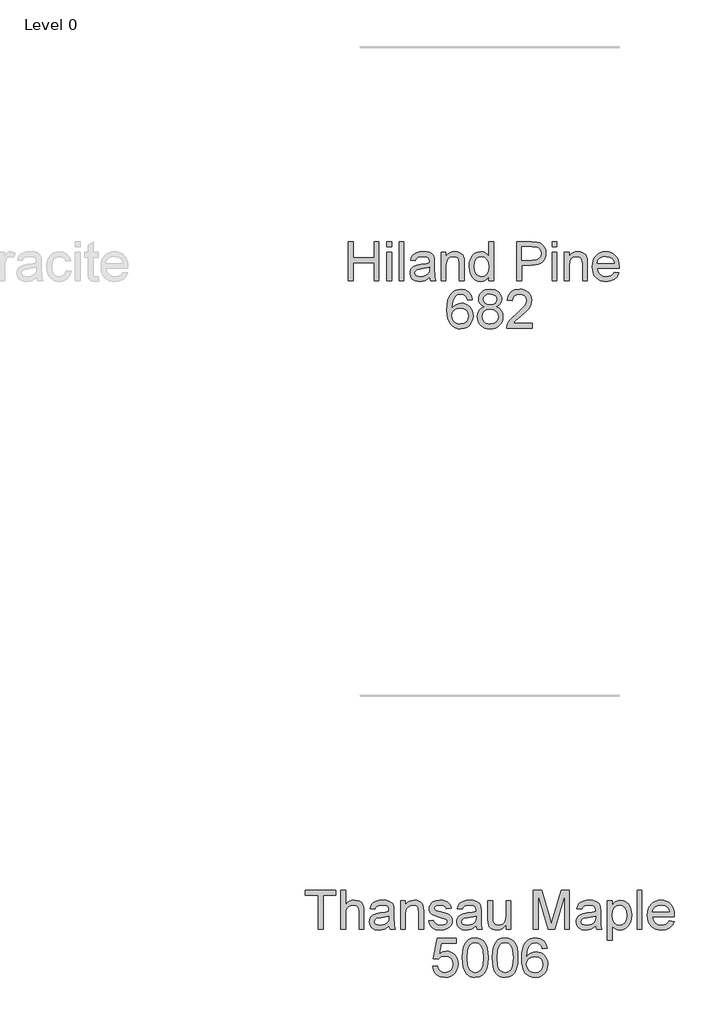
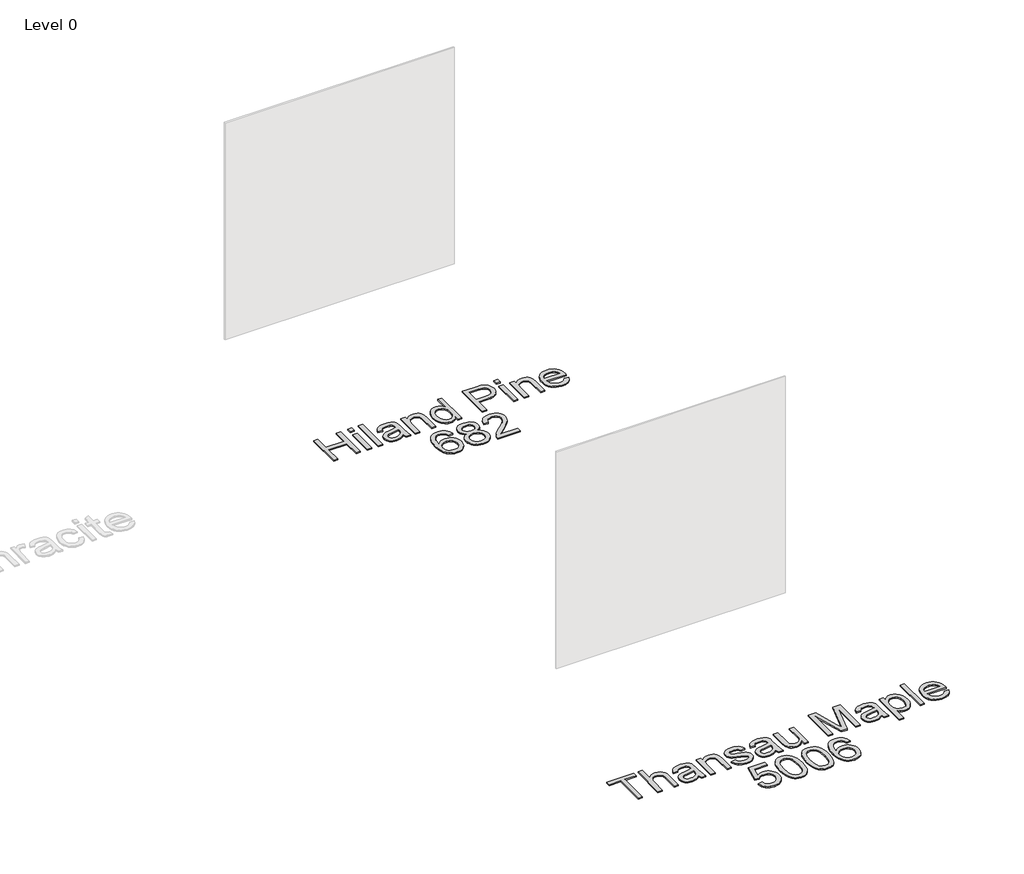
# One storey, part 5 of 16: 2 proxies.
"""IFC4 building model written with IfcOpenShell, lengths in millimetres."""

from ifc_helpers import new_model, si_unit, origin, origin_with_axes, place, context, project, spatial, polyline, outline, extrude, element, save

model = new_model("IFC4")

# Units and contexts
model_context = context("Model", 3, world=origin())
ifc_project = project(units=[si_unit("LENGTHUNIT", "METRE", prefix="MILLI")], contexts=[model_context])

# Site, building, storey
site = spatial("IfcSite", under=ifc_project)
building = spatial("IfcBuilding", under=site)
storey = spatial("IfcBuildingStorey", under=building, Name="Level 0", Elevation=0.0)

# Proxies
placement = place(None, origin())
element("IfcBuildingElementProxy", 1, Name="300mm Arial", ObjectType="300mm Arial", at=placement, inside=storey, context=model_context, shape_type="SweptSolid", body=[
    extrude(outline(polyline([(-5543.1204292, -17002.860494), (-5543.1204292, -16701.4915635), (-5505.4493129, -16701.4915635), (-5505.4493129, -16823.9226915), (-5345.3470686, -16823.9226915), (-5345.3470686, -16701.4915635), (-5307.6759523, -16701.4915635), (-5307.6759523, -17002.860494), (-5345.3470686, -17002.860494), (-5345.3470686, -16861.5938078), (-5505.4493129, -16861.5938078), (-5505.4493129, -17002.860494), (-5543.1204292, -17002.860494)])), origin_with_axes(), (0.0, 0.0, 1.0), 10.0),
    extrude(outline(polyline([(-5246.4603883, -17002.860494), (-5246.4603883, -16781.5426857), (-5208.789272, -16781.5426857), (-5208.789272, -17002.860494), (-5246.4603883, -17002.860494)])), origin_with_axes(), (0.0, 0.0, 1.0), 10.0),
    extrude(outline(polyline([(-5246.4603883, -16739.1626798), (-5246.4603883, -16701.4915635), (-5208.789272, -16701.4915635), (-5208.789272, -16739.1626798), (-5246.4603883, -16739.1626798)])), origin_with_axes(), (0.0, 0.0, 1.0), 10.0),
    extrude(outline(polyline([(-5152.2825975, -17002.860494), (-5152.2825975, -16701.4915635), (-5114.6114812, -16701.4915635), (-5114.6114812, -17002.860494), (-5152.2825975, -17002.860494)])), origin_with_axes(), (0.0, 0.0, 1.0), 10.0),
    extrude(outline(polyline([(-4916.8381206, -16974.6071568), (-4934.8367472, -16990.0398064), (-4953.3688027, -17000.1381672), (-4972.8573514, -17005.7115794), (-4993.7254576, -17007.5693835), (-5025.2069593, -17003.0996173), (-5048.4295103, -16989.6903186), (-5062.7493169, -16969.3280501), (-5067.5225858, -16943.9993748), (-5065.719964, -16928.3827841), (-5060.3120987, -16914.2009331), (-5051.9703745, -16902.0608273), (-5041.366176, -16892.5694718), (-5014.9890369, -16880.2086368), (-4982.3946921, -16874.5432541), (-4943.8774472, -16868.5835657), (-4917.0588498, -16861.5938078), (-4916.8381206, -16853.2060983), (-4919.4316887, -16836.3938912), (-4927.2123929, -16825.3942195), (-4944.6132112, -16817.2272392), (-4968.8566347, -16814.5049125), (-4991.2974364, -16816.3167313), (-5006.9692094, -16821.7521878), (-5017.6561814, -16831.8045633), (-5025.14258, -16847.4671392), (-5062.8136963, -16842.7582497), (-5056.2745938, -16822.156858), (-5046.5165239, -16805.9700502), (-5032.6289786, -16793.590821), (-5013.7014499, -16784.4121652), (-4990.5524754, -16778.7283884), (-4964.0005924, -16776.8337961), (-4938.5339613, -16778.5076592), (-4918.3464368, -16783.5292485), (-4903.1253192, -16791.0800264), (-4892.5579089, -16800.3414556), (-4885.5497569, -16811.7917827), (-4881.0064143, -16825.9092543), (-4879.1670043, -16858.8714811), (-4879.1670043, -16905.7396473), (-4877.2540179, -16971.1858542), (-4869.7492252, -17002.860494), (-4907.4203415, -17002.860494), (-4916.8381206, -16974.6071568)]), holes=[polyline([(-4916.8381206, -16899.2649241), (-4977.6122262, -16910.8164188), (-5010.02263, -16916.9232599), (-5024.7011216, -16926.8560738), (-5029.8514695, -16941.3506244), (-5027.0463693, -16952.5526311), (-5018.6310687, -16961.7312869), (-5004.7895086, -16967.8565221), (-4985.7056301, -16969.8982672), (-4965.4721204, -16967.64499), (-4947.5930554, -16960.8851583), (-4933.0985048, -16950.9247533), (-4923.0185381, -16939.069756), (-4918.5487719, -16926.8560738), (-4917.0588498, -16909.933502), (-4916.8381206, -16899.2649241)])]), origin_with_axes(), (0.0, 0.0, 1.0), 10.0),
    extrude(outline(polyline([(-4827.3692194, -17002.860494), (-4827.3692194, -16781.5426857), (-4789.6981031, -16781.5426857), (-4789.6981031, -16812.4447733), (-4776.6107011, -16796.8649708), (-4760.8929428, -16785.7365404), (-4742.5448283, -16779.0594822), (-4721.5663576, -16776.8337961), (-4702.9975138, -16778.6272209), (-4685.9921686, -16784.0074951), (-4671.8103177, -16792.303234), (-4661.7119569, -16802.8430532), (-4650.4179797, -16830.5445674), (-4648.4314169, -16866.964885), (-4648.4314169, -17002.860494), (-4686.1025332, -17002.860494), (-4686.1025332, -16872.0416565), (-4690.4435408, -16838.7115477), (-4696.4492143, -16828.7879309), (-4705.78422, -16821.0900002), (-4717.7495819, -16816.1511844), (-4731.6463242, -16814.5049125), (-4753.7100469, -16818.2021265), (-4772.5180139, -16829.2937687), (-4780.0343029, -16838.3482643), (-4785.4030808, -16850.7228949), (-4789.6981031, -16885.4325611), (-4789.6981031, -17002.860494), (-4827.3692194, -17002.860494)])), origin_with_axes(), (0.0, 0.0, 1.0), 10.0),
    extrude(outline(polyline([(-4460.0758354, -17002.860494), (-4460.0758354, -16967.3230932), (-4471.34682, -16984.9308452), (-4484.9998406, -16997.507811), (-4501.034897, -17005.0539904), (-4519.4519894, -17007.5693835), (-4543.8057775, -17003.9273518), (-4566.0994264, -16993.0012565), (-4584.9717727, -16975.5544529), (-4599.0616532, -16952.350296), (-4607.8356387, -16924.3268851), (-4610.7603006, -16892.422319), (-4608.065565, -16860.9132261), (-4599.9813581, -16832.4575538), (-4586.5168771, -16808.6739828), (-4567.681319, -16791.181194), (-4544.9002264, -16780.4206456), (-4519.5991422, -16776.8337961), (-4501.1682542, -16779.3997731), (-4484.8710819, -16787.0977038), (-4471.0571129, -16798.8975188), (-4460.0758354, -16813.7691485), (-4460.0758354, -16701.4915635), (-4422.4047191, -16701.4915635), (-4422.4047191, -17002.860494), (-4460.0758354, -17002.860494)]), holes=[polyline([(-4573.0891843, -16892.2751662), (-4568.8401473, -16926.350236), (-4556.0930361, -16950.5844625), (-4537.5701777, -16965.069816), (-4515.9938987, -16969.8982672), (-4494.4268167, -16965.2905452), (-4476.3730078, -16951.4673793), (-4464.1501285, -16928.1712519), (-4460.0758354, -16895.1446458), (-4464.2237049, -16859.037028), (-4476.6673134, -16834.0026582), (-4495.1809748, -16819.3793489), (-4517.539003, -16814.5049125), (-4539.3360112, -16819.1862108), (-4557.1966821, -16833.230106), (-4569.1160588, -16857.3539678), (-4573.0891843, -16892.2751662)])]), origin_with_axes(), (0.0, 0.0, 1.0), 10.0),
    extrude(outline(polyline([(-4243.4669166, -17002.860494), (-4243.4669166, -16701.4915635), (-4131.7779429, -16701.4915635), (-4086.7491867, -16704.3610431), (-4066.6720268, -16709.7229232), (-4050.1449282, -16718.4509235), (-4036.836797, -16730.9405172), (-4026.4165395, -16747.5871775), (-4019.684299, -16767.222879), (-4017.4402188, -16788.6795964), (-4018.9554328, -16807.1794622), (-4023.5010747, -16824.198603), (-4031.0771445, -16839.7370188), (-4041.6836423, -16853.7947095), (-4056.2448715, -16865.4473717), (-4075.6851357, -16873.7707019), (-4100.0044348, -16878.7647), (-4129.2027689, -16880.429366), (-4205.7958003, -16880.429366), (-4205.7958003, -17002.860494), (-4243.4669166, -17002.860494)]), holes=[polyline([(-4205.7958003, -16842.7582497), (-4126.995477, -16842.7582497), (-4093.5917918, -16839.3001589), (-4071.5188721, -16828.9258867), (-4059.2132193, -16812.2792264), (-4055.1113351, -16790.0039716), (-4057.5301592, -16773.0813998), (-4064.7866316, -16758.8075784), (-4075.9794413, -16748.0654241), (-4090.2072774, -16741.7378538), (-4127.8783937, -16739.1626798), (-4205.7958003, -16739.1626798), (-4205.7958003, -16842.7582497)])]), origin_with_axes(), (0.0, 0.0, 1.0), 10.0),
    extrude(outline(polyline([(-3970.3513234, -17002.860494), (-3970.3513234, -16781.5426857), (-3932.6802071, -16781.5426857), (-3932.6802071, -17002.860494), (-3970.3513234, -17002.860494)])), origin_with_axes(), (0.0, 0.0, 1.0), 10.0),
    extrude(outline(polyline([(-3970.3513234, -16739.1626798), (-3970.3513234, -16701.4915635), (-3932.6802071, -16701.4915635), (-3932.6802071, -16739.1626798), (-3970.3513234, -16739.1626798)])), origin_with_axes(), (0.0, 0.0, 1.0), 10.0),
    extrude(outline(polyline([(-3876.1735326, -17002.860494), (-3876.1735326, -16781.5426857), (-3838.5024163, -16781.5426857), (-3838.5024163, -16812.4447733), (-3825.4150144, -16796.8649708), (-3809.6972561, -16785.7365404), (-3791.3491416, -16779.0594822), (-3770.3706708, -16776.8337961), (-3751.8018271, -16778.6272209), (-3734.7964819, -16784.0074951), (-3720.614631, -16792.303234), (-3710.5162702, -16802.8430532), (-3699.222293, -16830.5445674), (-3697.2357302, -16866.964885), (-3697.2357302, -17002.860494), (-3734.9068465, -17002.860494), (-3734.9068465, -16872.0416565), (-3739.247854, -16838.7115477), (-3745.2535276, -16828.7879309), (-3754.5885332, -16821.0900002), (-3766.5538951, -16816.1511844), (-3780.4506375, -16814.5049125), (-3802.5143602, -16818.2021265), (-3821.3223272, -16829.2937687), (-3828.8386162, -16838.3482643), (-3834.207394, -16850.7228949), (-3838.5024163, -16885.4325611), (-3838.5024163, -17002.860494), (-3876.1735326, -17002.860494)])), origin_with_axes(), (0.0, 0.0, 1.0), 10.0),
    extrude(outline(polyline([(-3490.4860489, -16936.9360404), (-3453.5506966, -16941.64493), (-3466.8588278, -16969.4752029), (-3488.0948159, -16990.2789297), (-3516.7804145, -17003.2467701), (-3552.4373769, -17007.5693835), (-3575.8116792, -17005.7046817), (-3596.6383986, -17000.1105761), (-3614.9175352, -16990.7870668), (-3630.6490891, -16977.7341537), (-3643.2996312, -16961.3151204), (-3652.3357327, -16941.8932503), (-3657.7573936, -16919.4685435), (-3659.5646139, -16894.0409998), (-3657.7389995, -16867.7512327), (-3652.2621563, -16844.5792656), (-3643.1340843, -16824.5250983), (-3630.3547835, -16807.5887309), (-3614.6646164, -16794.133447), (-3596.8039455, -16784.5225298), (-3576.7727709, -16778.7559796), (-3554.5710925, -16776.8337961), (-3533.0844847, -16778.751381), (-3513.6534175, -16784.5041357), (-3496.2778911, -16794.0920602), (-3480.9579052, -16807.5151545), (-3468.4522166, -16824.4147337), (-3459.519582, -16844.4321128), (-3454.1600011, -16867.5672917), (-3452.3734742, -16893.8202706), (-3452.5942034, -16903.9738137), (-3621.8934976, -16903.9738137), (-3615.3727892, -16932.1719686), (-3600.2252481, -16952.902119), (-3578.3638605, -16965.6492302), (-3551.7016129, -16969.8982672), (-3531.6520442, -16967.9300985), (-3514.7662606, -16962.0255925), (-3501.0442622, -16951.8168672), (-3490.4860489, -16936.9360404)]), holes=[polyline([(-3621.8934976, -16866.3026974), (-3490.0445905, -16866.3026974), (-3495.1397561, -16846.4002814), (-3505.1277523, -16832.1632482), (-3527.0903074, -16818.9194964), (-3554.7182453, -16814.5049125), (-3580.1113, -16818.0273826), (-3601.1081648, -16828.5947929), (-3615.703883, -16845.0667092), (-3621.8934976, -16866.3026974)])]), origin_with_axes(), (0.0, 0.0, 1.0), 10.0),
    extrude(outline(polyline([(-4584.8614081, -17147.4671392), (-4622.5325245, -17152.1760288), (-4628.6025774, -17133.5060175), (-4636.8063459, -17120.7589064), (-4653.8944645, -17109.0050766), (-4674.5510386, -17105.0871334), (-4692.0622215, -17107.3680017), (-4708.5433349, -17114.2106069), (-4722.6975947, -17128.622384), (-4734.2582864, -17148.4604206), (-4742.0665817, -17176.5206198), (-4744.9636524, -17215.5988847), (-4729.8528995, -17197.9681401), (-4711.7439083, -17185.5429257), (-4691.6483543, -17178.1760888), (-4670.577913, -17175.7204764), (-4652.4781189, -17177.3989381), (-4635.7762763, -17182.4343229), (-4620.4723853, -17190.8266309), (-4606.5664459, -17202.5758621), (-4595.0103527, -17216.9830407), (-4586.7560004, -17233.349191), (-4581.8033891, -17251.6743129), (-4580.1525186, -17271.9584064), (-4583.2611215, -17298.9333537), (-4592.58693, -17323.9401323), (-4607.3573922, -17345.1485293), (-4626.7999556, -17360.7283318), (-4650.0317036, -17370.3024607), (-4676.1697194, -17373.4938371), (-4698.6266159, -17371.3785156), (-4718.9084101, -17365.0325512), (-4737.0151021, -17354.4559438), (-4752.9466917, -17339.6486935), (-4765.9352254, -17319.9854009), (-4775.2127495, -17294.8406665), (-4780.7792639, -17264.2144904), (-4782.6347688, -17228.1068726), (-4780.5746296, -17187.6260575), (-4774.3942121, -17153.0773396), (-4764.0935162, -17124.4607189), (-4749.672542, -17101.7761954), (-4734.0421557, -17086.7436174), (-4715.9193689, -17076.0060617), (-4695.3041816, -17069.5635282), (-4672.1965938, -17067.4160171), (-4639.1423965, -17072.7319119), (-4612.673287, -17088.6795964), (-4594.1320344, -17114.0082718), (-4584.8614081, -17147.4671392)]), holes=[polyline([(-4744.9636524, -17271.3697952), (-4742.7839516, -17288.0624407), (-4736.2448492, -17304.0009282), (-4726.0913061, -17317.7045325), (-4713.0682835, -17327.6925287), (-4697.3505252, -17333.7901727), (-4679.1127753, -17335.8227207), (-4654.2531495, -17331.6104719), (-4634.7094185, -17318.9737254), (-4622.0450808, -17299.1080976), (-4617.8236349, -17273.2092052), (-4621.9898985, -17248.3495793), (-4634.4886893, -17229.3944595), (-4654.3635141, -17217.3923095), (-4680.6578797, -17213.3915928), (-4705.4807173, -17217.3923095), (-4726.2384589, -17229.3944595), (-4740.2823541, -17247.8897269), (-4744.9636524, -17271.3697952)])]), origin_with_axes(), (0.0, 0.0, 1.0), 10.0),
    extrude(outline(polyline([(-4492.3022982, -17202.7965913), (-4512.4714285, -17192.8637774), (-4526.6256883, -17179.3992964), (-4534.9858067, -17162.6790597), (-4537.7725128, -17142.9789789), (-4536.2549995, -17127.6153071), (-4531.7024598, -17113.5300252), (-4524.1148937, -17100.7231332), (-4513.4923011, -17089.1946312), (-4500.3451183, -17079.6664875), (-4485.1837816, -17072.8606706), (-4448.8186463, -17067.4160171), (-4412.2327819, -17072.9894293), (-4396.9058983, -17079.9561946), (-4383.5563804, -17089.709666), (-4372.7406497, -17101.4634957), (-4365.0151278, -17114.4313361), (-4360.3798147, -17128.613187), (-4358.8347103, -17144.0090485), (-4361.5846282, -17163.0745329), (-4369.834382, -17179.509661), (-4383.675942, -17192.8913686), (-4403.2012789, -17202.7965913), (-4380.0155162, -17214.7435591), (-4363.1389297, -17232.3375155), (-4352.8474308, -17254.732332), (-4349.4169312, -17281.0818799), (-4351.1183855, -17299.8714528), (-4356.2227481, -17317.0975272), (-4364.7300193, -17332.7601031), (-4376.6401989, -17346.8591806), (-4391.3278875, -17358.5118428), (-4408.1676859, -17366.8351729), (-4427.1595939, -17371.829171), (-4448.3036115, -17373.4938371), (-4469.4476292, -17371.8222732), (-4488.4395372, -17366.8075818), (-4505.2793355, -17358.4497627), (-4519.9670242, -17346.748816), (-4531.8772038, -17332.5508703), (-4540.3844749, -17316.702054), (-4545.4888376, -17299.2023674), (-4547.1902918, -17280.0518103), (-4543.6218365, -17252.6813898), (-4532.9164704, -17230.1670117), (-4515.6260167, -17213.2812282), (-4492.3022982, -17202.7965913)]), holes=[polyline([(-4500.1013965, -17144.0826249), (-4496.7628674, -17160.52695), (-4486.74728, -17173.6603373), (-4470.3489401, -17182.268776), (-4447.8621531, -17185.1382555), (-4425.899598, -17182.2871701), (-4409.7495784, -17173.7339137), (-4399.8167646, -17161.0419848), (-4396.5058266, -17145.774882), (-4399.9271292, -17129.9283651), (-4410.1910368, -17116.822569), (-4426.5617856, -17108.0209923), (-4448.3036115, -17105.0871334), (-4470.1833932, -17107.9566129), (-4486.5265508, -17116.5650516), (-4496.7076851, -17129.1834041), (-4500.1013965, -17144.0826249)]), polyline([(-4509.5191755, -17278.7274351), (-4503.2283934, -17307.0911369), (-4494.5187872, -17319.2588339), (-4480.9715327, -17328.317928), (-4464.7479367, -17333.9465226), (-4448.0093059, -17335.8227207), (-4422.3679309, -17331.8771864), (-4403.1277025, -17320.0405832), (-4391.0979613, -17302.1155329), (-4387.0880475, -17279.9046575), (-4391.22672, -17257.316703), (-4403.6427373, -17238.9961796), (-4423.3244241, -17226.8560738), (-4449.2601047, -17222.8093718), (-4474.5427948, -17226.8008915), (-4493.5898851, -17238.7754504), (-4505.5368529, -17256.7464859), (-4509.5191755, -17278.7274351)])]), origin_with_axes(), (0.0, 0.0, 1.0), 10.0),
    extrude(outline(polyline([(-4123.3902334, -17331.1138312), (-4123.3902334, -17368.7849475), (-4321.163594, -17368.7849475), (-4317.1168921, -17342.8124787), (-4307.8278717, -17322.5145896), (-4294.234632, -17302.8237058), (-4274.5713393, -17282.213117), (-4247.0721602, -17259.156113), (-4206.4211997, -17223.0484951), (-4182.0306234, -17196.3954446), (-4169.8353353, -17174.7639833), (-4165.7702392, -17153.7211331), (-4169.605409, -17134.8579838), (-4181.1109184, -17119.1770138), (-4198.7968454, -17108.6096035), (-4221.1732677, -17105.0871334), (-4244.6717302, -17108.52683), (-4262.9278742, -17118.84592), (-4274.7092951, -17135.2350629), (-4278.7835882, -17156.8849183), (-4316.4547045, -17152.1760288), (-4307.3220339, -17115.7373171), (-4298.7756753, -17101.2013798), (-4287.5759678, -17089.1210548), (-4273.9804289, -17079.6251008), (-4258.2465758, -17072.8422765), (-4220.3639273, -17067.4160171), (-4200.1741036, -17068.9243332), (-4182.2053674, -17073.4492818), (-4166.4577187, -17080.9908627), (-4152.9311576, -17091.549076), (-4142.0671424, -17104.3421723), (-4134.3071316, -17118.5884026), (-4129.6511251, -17134.2877667), (-4128.0991229, -17151.4402648), (-4129.772986, -17169.4572855), (-4134.7945752, -17187.1616065), (-4143.7065166, -17205.1694302), (-4157.051436, -17224.0969588), (-4178.3242123, -17246.6941104), (-4211.0197246, -17275.7108027), (-4254.3562237, -17311.9471793), (-4271.3523719, -17331.1138312), (-4123.3902334, -17331.1138312)])), origin_with_axes(), (0.0, 0.0, 1.0), 10.0),
])
element("IfcBuildingElementProxy", 2, Name="300mm Arial", ObjectType="300mm Arial", at=placement, inside=storey, context=model_context, shape_type="SweptSolid", body=[
    extrude(outline(polyline([(-5776.2104613, -22012.860494), (-5776.2104613, -21749.1626798), (-5875.0971416, -21749.1626798), (-5875.0971416, -21711.4915635), (-5639.6526647, -21711.4915635), (-5639.6526647, -21749.1626798), (-5738.539345, -21749.1626798), (-5738.539345, -22012.860494), (-5776.2104613, -22012.860494)])), origin_with_axes(), (0.0, 0.0, 1.0), 10.0),
    extrude(outline(polyline([(-5601.9815484, -22012.860494), (-5601.9815484, -21711.4915635), (-5564.3104321, -21711.4915635), (-5564.3104321, -21822.2976205), (-5550.4734706, -21806.7821973), (-5534.9350548, -21795.6997522), (-5517.6951848, -21789.0502852), (-5498.7538606, -21786.8337961), (-5476.0003592, -21789.2526203), (-5456.4474311, -21796.5090926), (-5441.0515696, -21808.0329961), (-5430.7692679, -21823.2541137), (-5424.9751264, -21844.1682051), (-5423.043746, -21872.7710302), (-5423.043746, -22012.860494), (-5460.7148623, -22012.860494), (-5460.7148623, -21876.6705794), (-5463.7131005, -21853.0893435), (-5472.7078153, -21836.9393239), (-5487.2023659, -21827.6135153), (-5506.7001117, -21824.5049125), (-5522.620205, -21826.6018398), (-5537.5654111, -21832.8926219), (-5549.9446402, -21842.7702535), (-5558.1668028, -21855.6277292), (-5562.7745248, -21872.7158479), (-5564.3104321, -21895.2854083), (-5564.3104321, -22012.860494), (-5601.9815484, -22012.860494)])), origin_with_axes(), (0.0, 0.0, 1.0), 10.0),
    extrude(outline(polyline([(-5229.9792749, -21984.6071568), (-5247.9779015, -22000.0398064), (-5266.509957, -22010.1381672), (-5285.9985057, -22015.7115794), (-5306.8666119, -22017.5693835), (-5338.3481136, -22013.0996173), (-5361.5706646, -21999.6903186), (-5375.8904712, -21979.3280501), (-5380.6637401, -21953.9993748), (-5378.8611183, -21938.3827841), (-5373.453253, -21924.2009331), (-5365.1115288, -21912.0608273), (-5354.5073303, -21902.5694718), (-5328.1301912, -21890.2086368), (-5295.5358464, -21884.5432541), (-5257.0186015, -21878.5835657), (-5230.2000041, -21871.5938078), (-5229.9792749, -21863.2060983), (-5232.572843, -21846.3938912), (-5240.3535472, -21835.3942195), (-5257.7543655, -21827.2272392), (-5281.997789, -21824.5049125), (-5304.4385907, -21826.3167313), (-5320.1103637, -21831.7521878), (-5330.7973357, -21841.8045633), (-5338.2837343, -21857.4671392), (-5375.9548506, -21852.7582497), (-5369.4157481, -21832.156858), (-5359.6576782, -21815.9700502), (-5345.7701329, -21803.590821), (-5326.8426042, -21794.4121652), (-5303.6936297, -21788.7283884), (-5277.1417467, -21786.8337961), (-5251.6751156, -21788.5076592), (-5231.4875911, -21793.5292485), (-5216.2664735, -21801.0800264), (-5205.6990632, -21810.3414556), (-5198.6909112, -21821.7917827), (-5194.1475686, -21835.9092543), (-5192.3081586, -21868.8714811), (-5192.3081586, -21915.7396473), (-5190.3951722, -21981.1858542), (-5182.8903795, -22012.860494), (-5220.5614958, -22012.860494), (-5229.9792749, -21984.6071568)]), holes=[polyline([(-5229.9792749, -21909.2649241), (-5290.7533805, -21920.8164188), (-5323.1637843, -21926.9232599), (-5337.8422759, -21936.8560738), (-5342.9926238, -21951.3506244), (-5340.1875236, -21962.5526311), (-5331.772223, -21971.7312869), (-5317.9306629, -21977.8565221), (-5298.8467844, -21979.8982672), (-5278.6132747, -21977.64499), (-5260.7342097, -21970.8851583), (-5246.2396591, -21960.9247533), (-5236.1596924, -21949.069756), (-5231.6899262, -21936.8560738), (-5230.2000041, -21919.933502), (-5229.9792749, -21909.2649241)])]), origin_with_axes(), (0.0, 0.0, 1.0), 10.0),
    extrude(outline(polyline([(-5140.5103737, -22012.860494), (-5140.5103737, -21791.5426857), (-5102.8392574, -21791.5426857), (-5102.8392574, -21822.4447733), (-5089.7518554, -21806.8649708), (-5074.0340971, -21795.7365404), (-5055.6859826, -21789.0594822), (-5034.7075119, -21786.8337961), (-5016.1386681, -21788.6272209), (-4999.1333229, -21794.0074951), (-4984.951472, -21802.303234), (-4974.8531112, -21812.8430532), (-4963.559134, -21840.5445674), (-4961.5725712, -21876.964885), (-4961.5725712, -22012.860494), (-4999.2436875, -22012.860494), (-4999.2436875, -21882.0416565), (-5003.5846951, -21848.7115477), (-5009.5903686, -21838.7879309), (-5018.9253743, -21831.0900002), (-5030.8907362, -21826.1511844), (-5044.7874785, -21824.5049125), (-5066.8512012, -21828.2021265), (-5085.6591682, -21839.2937687), (-5093.1754572, -21848.3482643), (-5098.5442351, -21860.7228949), (-5102.8392574, -21895.4325611), (-5102.8392574, -22012.860494), (-5140.5103737, -22012.860494)])), origin_with_axes(), (0.0, 0.0, 1.0), 10.0),
    extrude(outline(polyline([(-4923.9014549, -21946.9360404), (-4886.2303386, -21942.2271509), (-4880.2890444, -21958.3403823), (-4868.792732, -21970.1861825), (-4851.6678251, -21977.470246), (-4828.8407473, -21979.8982672), (-4806.289581, -21977.6725811), (-4790.4338671, -21970.9955229), (-4781.0528762, -21961.3202265), (-4777.9258792, -21950.0998256), (-4781.0712703, -21940.4981055), (-4790.5074435, -21933.1772538), (-4829.2822057, -21922.4350996), (-4886.0096094, -21904.0042116), (-4900.3662043, -21894.7427824), (-4910.7680677, -21882.4831149), (-4917.0864409, -21868.0069584), (-4919.1925654, -21852.0960621), (-4917.5003082, -21837.5003439), (-4912.4235367, -21824.0266659), (-4904.4221033, -21812.2084568), (-4893.9558605, -21802.5791455), (-4870.0067426, -21791.4323211), (-4837.5963388, -21786.8337961), (-4813.0770039, -21788.6824032), (-4791.7582422, -21794.2282242), (-4774.6149413, -21802.9286334), (-4762.6219882, -21814.2410048), (-4754.6757371, -21829.0022698), (-4749.672542, -21848.0493601), (-4787.3436583, -21852.7582497), (-4792.0985331, -21840.9032524), (-4801.5071151, -21831.972917), (-4815.6613749, -21826.3719136), (-4834.6532829, -21824.5049125), (-4856.2847442, -21826.2891401), (-4870.7057184, -21831.6418232), (-4878.8175164, -21839.3673451), (-4881.5214491, -21848.2700893), (-4877.0332887, -21859.2329728), (-4862.9801965, -21867.5471059), (-4830.5330045, -21875.5669334), (-4775.2403407, -21893.2988455), (-4760.6354254, -21901.7785255), (-4749.5621774, -21913.3852025), (-4742.5816165, -21928.1556646), (-4740.2547629, -21946.1267001), (-4742.9862867, -21964.7047408), (-4751.1808582, -21982.1791356), (-4764.5257775, -21997.1795239), (-4782.7083452, -22008.3355454), (-4804.6709003, -22015.260924), (-4829.3557821, -22017.5693835), (-4867.3395981, -22013.1180114), (-4895.0595065, -21999.763895), (-4913.5639708, -21977.654187), (-4923.9014549, -21946.9360404)])), origin_with_axes(), (0.0, 0.0, 1.0), 10.0),
    extrude(outline(polyline([(-4556.6080709, -21984.6071568), (-4574.6066975, -22000.0398064), (-4593.138753, -22010.1381672), (-4612.6273017, -22015.7115794), (-4633.4954079, -22017.5693835), (-4664.9769096, -22013.0996173), (-4688.1994606, -21999.6903186), (-4702.5192673, -21979.3280501), (-4707.2925361, -21953.9993748), (-4705.4899144, -21938.3827841), (-4700.082049, -21924.2009331), (-4691.7403248, -21912.0608273), (-4681.1361263, -21902.5694718), (-4654.7589872, -21890.2086368), (-4622.1646425, -21884.5432541), (-4583.6473976, -21878.5835657), (-4556.8288001, -21871.5938078), (-4556.6080709, -21863.2060983), (-4559.201639, -21846.3938912), (-4566.9823432, -21835.3942195), (-4584.3831616, -21827.2272392), (-4608.626585, -21824.5049125), (-4631.0673867, -21826.3167313), (-4646.7391597, -21831.7521878), (-4657.4261317, -21841.8045633), (-4664.9125303, -21857.4671392), (-4702.5836466, -21852.7582497), (-4696.0445441, -21832.156858), (-4686.2864742, -21815.9700502), (-4672.3989289, -21803.590821), (-4653.4714002, -21794.4121652), (-4630.3224257, -21788.7283884), (-4603.7705427, -21786.8337961), (-4578.3039116, -21788.5076592), (-4558.1163871, -21793.5292485), (-4542.8952695, -21801.0800264), (-4532.3278592, -21810.3414556), (-4525.3197072, -21821.7917827), (-4520.7763646, -21835.9092543), (-4518.9369546, -21868.8714811), (-4518.9369546, -21915.7396473), (-4517.0239682, -21981.1858542), (-4509.5191755, -22012.860494), (-4547.1902918, -22012.860494), (-4556.6080709, -21984.6071568)]), holes=[polyline([(-4556.6080709, -21909.2649241), (-4617.3821765, -21920.8164188), (-4649.7925803, -21926.9232599), (-4664.4710719, -21936.8560738), (-4669.6214198, -21951.3506244), (-4666.8163196, -21962.5526311), (-4658.401019, -21971.7312869), (-4644.5594589, -21977.8565221), (-4625.4755804, -21979.8982672), (-4605.2420707, -21977.64499), (-4587.3630057, -21970.8851583), (-4572.8684551, -21960.9247533), (-4562.7884884, -21949.069756), (-4558.3187222, -21936.8560738), (-4556.8288001, -21919.933502), (-4556.6080709, -21909.2649241)])]), origin_with_axes(), (0.0, 0.0, 1.0), 10.0),
    extrude(outline(polyline([(-4325.8724835, -22012.860494), (-4325.8724835, -21974.8214957), (-4339.5025115, -21993.5236966), (-4355.3766196, -22006.8824116), (-4373.4948078, -22014.8976405), (-4393.8570763, -22017.5693835), (-4412.2051908, -22015.6931853), (-4429.2841124, -22010.0645908), (-4443.6131161, -22001.6033049), (-4453.7114769, -21991.2290327), (-4464.9318777, -21963.4907302), (-4467.1391697, -21928.4683643), (-4467.1391697, -21791.5426857), (-4429.4680534, -21791.5426857), (-4429.4680534, -21910.7364521), (-4427.187185, -21949.1433324), (-4421.6965462, -21961.9548229), (-4412.2879642, -21971.6944987), (-4399.5868383, -21977.8473251), (-4384.218568, -21979.8982672), (-4367.9673808, -21977.8013398), (-4352.7646574, -21971.5105577), (-4340.2290784, -21961.605335), (-4331.9793247, -21948.6650858), (-4327.3991938, -21930.9423707), (-4325.8724835, -21906.6897502), (-4325.8724835, -21791.5426857), (-4288.2013672, -21791.5426857), (-4288.2013672, -22012.860494), (-4325.8724835, -22012.860494)])), origin_with_axes(), (0.0, 0.0, 1.0), 10.0),
    extrude(outline(polyline([(-4113.9724543, -22012.860494), (-4113.9724543, -21711.4915635), (-4049.1516468, -21711.4915635), (-3987.4946244, -21923.9066275), (-3975.0602129, -21968.2731962), (-3961.5957319, -21920.2278076), (-3900.9687791, -21711.4915635), (-3836.1479716, -21711.4915635), (-3836.1479716, -22012.860494), (-3873.8190879, -22012.860494), (-3873.8190879, -21749.1626798), (-3949.5292025, -22012.860494), (-4000.5912234, -22012.860494), (-4076.301338, -21749.1626798), (-4076.301338, -22012.860494), (-4113.9724543, -22012.860494)])), origin_with_axes(), (0.0, 0.0, 1.0), 10.0),
    extrude(outline(polyline([(-3633.6657214, -21984.6071568), (-3651.664348, -22000.0398064), (-3670.1964035, -22010.1381672), (-3689.6849522, -22015.7115794), (-3710.5530584, -22017.5693835), (-3742.0345601, -22013.0996173), (-3765.2571111, -21999.6903186), (-3779.5769178, -21979.3280501), (-3784.3501866, -21953.9993748), (-3782.5475649, -21938.3827841), (-3777.1396995, -21924.2009331), (-3768.7979753, -21912.0608273), (-3758.1937768, -21902.5694718), (-3731.8166377, -21890.2086368), (-3699.222293, -21884.5432541), (-3660.7050481, -21878.5835657), (-3633.8864506, -21871.5938078), (-3633.6657214, -21863.2060983), (-3636.2592895, -21846.3938912), (-3644.0399937, -21835.3942195), (-3661.4408121, -21827.2272392), (-3685.6842355, -21824.5049125), (-3708.1250372, -21826.3167313), (-3723.7968102, -21831.7521878), (-3734.4837822, -21841.8045633), (-3741.9701808, -21857.4671392), (-3779.6412971, -21852.7582497), (-3773.1021946, -21832.156858), (-3763.3441247, -21815.9700502), (-3749.4565794, -21803.590821), (-3730.5290507, -21794.4121652), (-3707.3800762, -21788.7283884), (-3680.8281932, -21786.8337961), (-3655.3615621, -21788.5076592), (-3635.1740376, -21793.5292485), (-3619.95292, -21801.0800264), (-3609.3855097, -21810.3414556), (-3602.3773577, -21821.7917827), (-3597.8340151, -21835.9092543), (-3595.9946051, -21868.8714811), (-3595.9946051, -21915.7396473), (-3594.0816187, -21981.1858542), (-3586.576826, -22012.860494), (-3624.2479423, -22012.860494), (-3633.6657214, -21984.6071568)]), holes=[polyline([(-3633.6657214, -21909.2649241), (-3694.439827, -21920.8164188), (-3726.8502308, -21926.9232599), (-3741.5287224, -21936.8560738), (-3746.6790703, -21951.3506244), (-3743.8739701, -21962.5526311), (-3735.4586695, -21971.7312869), (-3721.6171094, -21977.8565221), (-3702.5332309, -21979.8982672), (-3682.2997212, -21977.64499), (-3664.4206562, -21970.8851583), (-3649.9261056, -21960.9247533), (-3639.8461389, -21949.069756), (-3635.3763727, -21936.8560738), (-3633.8864506, -21919.933502), (-3633.6657214, -21909.2649241)])]), origin_with_axes(), (0.0, 0.0, 1.0), 10.0),
    extrude(outline(polyline([(-3544.1968202, -22097.6205057), (-3544.1968202, -21791.5426857), (-3506.5257039, -21791.5426857), (-3506.5257039, -21828.478038), (-3494.2384452, -21810.2586822), (-3480.4796586, -21797.2448566), (-3464.4400036, -21789.4365613), (-3445.3101399, -21786.8337961), (-3419.8343117, -21790.4758279), (-3397.5590569, -21801.4019232), (-3379.4224746, -21818.9498943), (-3366.3626637, -21842.4575538), (-3358.4715949, -21870.2142504), (-3355.8412387, -21900.5093327), (-3358.8118858, -21932.7265984), (-3367.7238271, -21961.5409557), (-3382.2919541, -21985.4900735), (-3402.2311583, -22003.1116211), (-3425.4537092, -22013.9549429), (-3449.8718766, -22017.5693835), (-3467.1899216, -22015.1505594), (-3482.6501624, -22007.894087), (-3495.8847172, -21996.9404006), (-3506.5257039, -21983.4299344), (-3506.5257039, -22097.6205057), (-3544.1968202, -22097.6205057)]), holes=[polyline([(-3506.5257039, -21903.9674234), (-3502.4514108, -21937.7389906), (-3490.2285315, -21961.3570147), (-3472.1931167, -21975.2629541), (-3450.681217, -21979.8982672), (-3428.8198295, -21975.0974072), (-3410.3245621, -21960.6948271), (-3397.7154068, -21936.2122803), (-3393.512355, -21901.1715202), (-3397.6142392, -21867.5838941), (-3409.919892, -21843.6347762), (-3427.9277156, -21829.2873784), (-3449.1361126, -21824.5049125), (-3470.4272831, -21829.590881), (-3489.1248855, -21844.8487868), (-3502.1754993, -21869.8003831), (-3506.5257039, -21903.9674234)])]), origin_with_axes(), (0.0, 0.0, 1.0), 10.0),
    extrude(outline(polyline([(-3313.4612328, -22012.860494), (-3313.4612328, -21711.4915635), (-3275.7901165, -21711.4915635), (-3275.7901165, -22012.860494), (-3313.4612328, -22012.860494)])), origin_with_axes(), (0.0, 0.0, 1.0), 10.0),
    extrude(outline(polyline([(-3064.3315457, -21946.9360404), (-3027.3961934, -21951.64493), (-3040.7043245, -21979.4752029), (-3061.9403127, -22000.2789297), (-3090.6259113, -22013.2467701), (-3126.2828737, -22017.5693835), (-3149.6571759, -22015.7046817), (-3170.4838954, -22010.1105761), (-3188.763032, -22000.7870668), (-3204.4945858, -21987.7341537), (-3217.145128, -21971.3151204), (-3226.1812295, -21951.8932503), (-3231.6028904, -21929.4685435), (-3233.4101107, -21904.0409998), (-3231.5844963, -21877.7512327), (-3226.1076531, -21854.5792656), (-3216.9795811, -21834.5250983), (-3204.2002802, -21817.5887309), (-3188.5101132, -21804.133447), (-3170.6494423, -21794.5225298), (-3150.6182677, -21788.7559796), (-3128.4165892, -21786.8337961), (-3106.9299815, -21788.751381), (-3087.4989143, -21794.5041357), (-3070.1233878, -21804.0920602), (-3054.803402, -21817.5151545), (-3042.2977134, -21834.4147337), (-3033.3650787, -21854.4321128), (-3028.0054979, -21877.5672917), (-3026.218971, -21903.8202706), (-3026.4397002, -21913.9738137), (-3195.7389944, -21913.9738137), (-3189.218286, -21942.1719686), (-3174.0707448, -21962.902119), (-3152.2093573, -21975.6492302), (-3125.5471097, -21979.8982672), (-3105.4975409, -21977.9300985), (-3088.6117574, -21972.0255925), (-3074.8897589, -21961.8168672), (-3064.3315457, -21946.9360404)]), holes=[polyline([(-3195.7389944, -21876.3026974), (-3063.8900873, -21876.3026974), (-3068.9852529, -21856.4002814), (-3078.9732491, -21842.1632482), (-3100.9358042, -21828.9194964), (-3128.563742, -21824.5049125), (-3153.9567968, -21828.0273826), (-3174.9536616, -21838.5947929), (-3189.5493798, -21855.0667092), (-3195.7389944, -21876.3026974)])]), origin_with_axes(), (0.0, 0.0, 1.0), 10.0),
    extrude(outline(polyline([(-4893.2936729, -22298.7338254), (-4855.6225566, -22294.0249358), (-4848.7063751, -22316.6404815), (-4836.6398456, -22332.8364863), (-4819.4781506, -22342.5761621), (-4797.2764722, -22345.8227207), (-4770.2739337, -22341.3069693), (-4750.040424, -22327.7597148), (-4737.4036774, -22306.7444558), (-4733.1914286, -22279.8246908), (-4737.136963, -22254.4776213), (-4748.9735662, -22235.0902402), (-4768.7932087, -22222.7845875), (-4796.687861, -22218.6827032), (-4814.9623991, -22220.3197781), (-4829.7604523, -22225.2310027), (-4850.9136671, -22242.2271509), (-4888.5847834, -22237.5182614), (-4855.6225566, -22082.1249066), (-4709.6469809, -22082.1249066), (-4709.6469809, -22119.7960229), (-4825.1619274, -22119.7960229), (-4841.2751588, -22202.790201), (-4814.3645908, -22186.4562404), (-4786.1664359, -22181.0115869), (-4767.8206207, -22182.6992456), (-4750.969326, -22187.7622215), (-4735.612552, -22196.2005148), (-4721.7502986, -22208.0141254), (-4710.2746796, -22222.4810848), (-4702.0778089, -22238.8794248), (-4697.1596864, -22257.2091452), (-4695.5203123, -22277.470246), (-4701.4248183, -22315.1413624), (-4708.8054508, -22331.9351754), (-4719.1383364, -22347.3678251), (-4734.7917153, -22363.1729553), (-4753.0570563, -22374.4623341), (-4773.9343596, -22381.2359613), (-4797.423625, -22383.4938371), (-4834.4233566, -22377.6904986), (-4850.1020274, -22370.4363255), (-4863.8999015, -22360.2804832), (-4875.380119, -22347.7288093), (-4884.1058201, -22333.2871418), (-4893.2936729, -22298.7338254)])), origin_with_axes(), (0.0, 0.0, 1.0), 10.0),
    extrude(outline(polyline([(-4662.5580855, -22230.5285035), (-4659.7897735, -22182.2899768), (-4651.4848375, -22143.8187172), (-4637.7260509, -22114.5261133), (-4618.5961871, -22093.8235541), (-4593.9572905, -22081.5179013), (-4563.6714052, -22077.4160171), (-4540.4580513, -22079.8440382), (-4519.6727186, -22087.1281017), (-4502.2902943, -22098.983099), (-4489.2856658, -22115.1239216), (-4479.4632165, -22135.4126136), (-4471.62733, -22159.7112194), (-4466.4953762, -22190.5673217), (-4464.7847249, -22230.5285035), (-4467.5254458, -22278.4911186), (-4475.7476084, -22316.8704077), (-4489.4236215, -22346.1906027), (-4508.5258941, -22366.9759355), (-4533.2199731, -22379.3643617), (-4563.6714052, -22383.4938371), (-4584.4199498, -22381.7004123), (-4602.8140495, -22376.3201381), (-4618.8537045, -22367.3530145), (-4632.5389147, -22354.7990414), (-4645.672302, -22332.1053209), (-4655.0532928, -22303.828991), (-4660.6818874, -22269.9700519), (-4662.5580855, -22230.5285035)]), holes=[polyline([(-4624.8869692, -22230.4549271), (-4620.4723853, -22289.7115194), (-4614.9541554, -22309.9795181), (-4607.2286335, -22324.0073184), (-4587.5101585, -22340.3688702), (-4563.6714052, -22345.8227207), (-4539.8326519, -22340.3504761), (-4520.114177, -22323.933742), (-4512.3886551, -22309.8829491), (-4506.8704252, -22289.6195489), (-4502.4558412, -22230.4549271), (-4506.7232724, -22172.5319069), (-4512.0575613, -22152.3305869), (-4519.5255658, -22137.9693935), (-4539.2072525, -22120.8076984), (-4564.1128636, -22115.0871334), (-4587.6940995, -22120.1271167), (-4606.6400223, -22135.2470667), (-4614.6230616, -22150.8820515), (-4620.3252325, -22171.9616898), (-4624.8869692, -22230.4549271)])]), origin_with_axes(), (0.0, 0.0, 1.0), 10.0),
    extrude(outline(polyline([(-4431.8224982, -22230.5285035), (-4429.0541861, -22182.2899768), (-4420.7492501, -22143.8187172), (-4406.9904635, -22114.5261133), (-4387.8605997, -22093.8235541), (-4363.2217031, -22081.5179013), (-4332.9358179, -22077.4160171), (-4309.722464, -22079.8440382), (-4288.9371312, -22087.1281017), (-4271.554707, -22098.983099), (-4258.5500784, -22115.1239216), (-4248.7276292, -22135.4126136), (-4240.8917427, -22159.7112194), (-4235.7597888, -22190.5673217), (-4234.0491375, -22230.5285035), (-4236.7898584, -22278.4911186), (-4245.012021, -22316.8704077), (-4258.6880342, -22346.1906027), (-4277.7903068, -22366.9759355), (-4302.4843857, -22379.3643617), (-4332.9358179, -22383.4938371), (-4353.6843624, -22381.7004123), (-4372.0784621, -22376.3201381), (-4388.1181171, -22367.3530145), (-4401.8033273, -22354.7990414), (-4414.9367146, -22332.1053209), (-4424.3177055, -22303.828991), (-4429.9463, -22269.9700519), (-4431.8224982, -22230.5285035)]), holes=[polyline([(-4394.1513818, -22230.4549271), (-4389.7367979, -22289.7115194), (-4384.218568, -22309.9795181), (-4376.4930461, -22324.0073184), (-4356.7745711, -22340.3688702), (-4332.9358179, -22345.8227207), (-4309.0970646, -22340.3504761), (-4289.3785896, -22323.933742), (-4281.6530677, -22309.8829491), (-4276.1348378, -22289.6195489), (-4271.7202539, -22230.4549271), (-4275.987685, -22172.5319069), (-4281.3219739, -22152.3305869), (-4288.7899784, -22137.9693935), (-4308.4716652, -22120.8076984), (-4333.3772762, -22115.0871334), (-4356.9585121, -22120.1271167), (-4375.9044349, -22135.2470667), (-4383.8874742, -22150.8820515), (-4389.5896451, -22171.9616898), (-4394.1513818, -22230.4549271)])]), origin_with_axes(), (0.0, 0.0, 1.0), 10.0),
    extrude(outline(polyline([(-4008.0224397, -22157.4671392), (-4045.693556, -22162.1760288), (-4051.7636089, -22143.5060175), (-4059.9673774, -22130.7589064), (-4077.0554961, -22119.0050766), (-4097.7120701, -22115.0871334), (-4115.2232531, -22117.3680017), (-4131.7043665, -22124.2106069), (-4145.8586263, -22138.622384), (-4157.419318, -22158.4604206), (-4165.2276133, -22186.5206198), (-4168.124684, -22225.5988847), (-4153.0139311, -22207.9681401), (-4134.9049398, -22195.5429257), (-4114.8093859, -22188.1760888), (-4093.7389446, -22185.7204764), (-4075.6391504, -22187.3989381), (-4058.9373078, -22192.4343229), (-4043.6334168, -22200.8266309), (-4029.7274774, -22212.5758621), (-4018.1713843, -22226.9830407), (-4009.917032, -22243.349191), (-4004.9644206, -22261.6743129), (-4003.3135502, -22281.9584064), (-4006.422153, -22308.9333537), (-4015.7479616, -22333.9401323), (-4030.5184237, -22355.1485293), (-4049.9609872, -22370.7283318), (-4073.1927352, -22380.3024607), (-4099.3307509, -22383.4938371), (-4121.7876475, -22381.3785156), (-4142.0694417, -22375.0325512), (-4160.1761337, -22364.4559438), (-4176.1077233, -22349.6486935), (-4189.096257, -22329.9854009), (-4198.3737811, -22304.8406665), (-4203.9402955, -22274.2144904), (-4205.7958003, -22238.1068726), (-4203.7356611, -22197.6260575), (-4197.5552436, -22163.0773396), (-4187.2545478, -22134.4607189), (-4172.8335735, -22111.7761954), (-4157.2031873, -22096.7436174), (-4139.0804005, -22086.0060617), (-4118.4652132, -22079.5635282), (-4095.3576254, -22077.4160171), (-4062.3034281, -22082.7319119), (-4035.8343185, -22098.6795964), (-4017.293066, -22124.0082718), (-4008.0224397, -22157.4671392)]), holes=[polyline([(-4168.124684, -22281.3697952), (-4165.9449832, -22298.0624407), (-4159.4058807, -22314.0009282), (-4149.2523377, -22327.7045325), (-4136.229315, -22337.6925287), (-4120.5115568, -22343.7901727), (-4102.2738069, -22345.8227207), (-4077.4141811, -22341.6104719), (-4057.8704501, -22328.9737254), (-4045.2061124, -22309.1080976), (-4040.9846665, -22283.2092052), (-4045.1509301, -22258.3495793), (-4057.6497209, -22239.3944595), (-4077.5245456, -22227.3923095), (-4103.8189113, -22223.3915928), (-4128.6417489, -22227.3923095), (-4149.3994905, -22239.3944595), (-4163.4433856, -22257.8897269), (-4168.124684, -22281.3697952)])]), origin_with_axes(), (0.0, 0.0, 1.0), 10.0),
])

save(model, "model.ifc")
